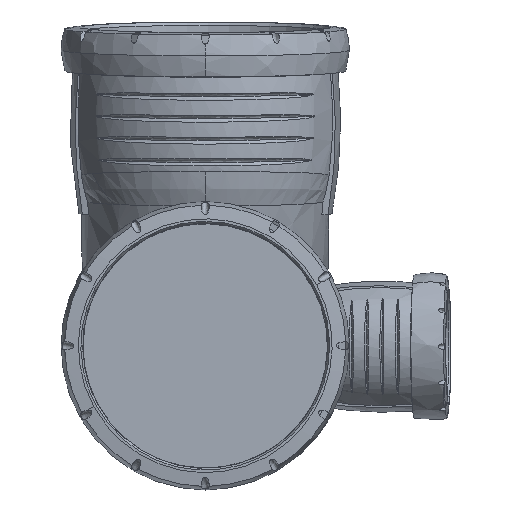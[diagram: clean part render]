
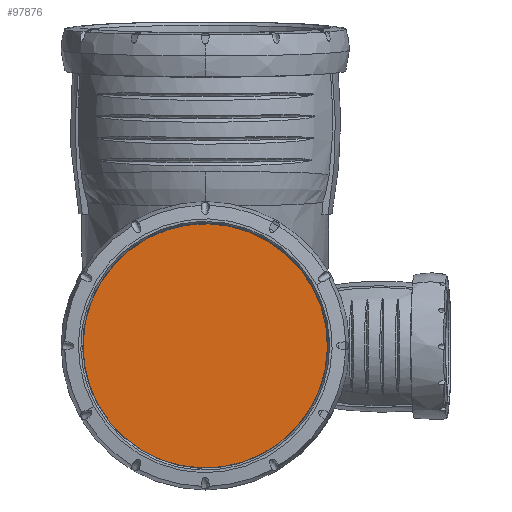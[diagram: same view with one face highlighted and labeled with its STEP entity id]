
A CAD part, top view. The second image highlights one B-rep face of the part: STEP entity #97876.
In plain terms, the highlighted planar face has unit normal (0, 0, 1).
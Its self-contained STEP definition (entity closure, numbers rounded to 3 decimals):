
#97176=CARTESIAN_POINT('',(48.706,26.608,283.2));
#97177=VERTEX_POINT('',#97176);
#97191=CARTESIAN_POINT('',(0.,0.,283.2));
#97196=DIRECTION('',(0.,0.,-1.));
#97201=DIRECTION('',(0.878,0.479,0.));
#97206=AXIS2_PLACEMENT_3D('',#97191,#97196,#97201);
#97211=CIRCLE('',#97206,55.5);
#97216=CARTESIAN_POINT('',(-48.706,-26.608,283.2));
#97217=VERTEX_POINT('',#97216);
#97221=EDGE_CURVE('',#97177,#97217,#97211,.T.);
#97361=CARTESIAN_POINT('',(0.,0.,283.2));
#97366=DIRECTION('',(0.,0.,-1.));
#97371=DIRECTION('',(-0.878,-0.479,0.));
#97376=AXIS2_PLACEMENT_3D('',#97361,#97366,#97371);
#97381=CIRCLE('',#97376,55.5);
#97386=EDGE_CURVE('',#97217,#97177,#97381,.T.);
#97831=DIRECTION('',(0.,0.,1.));
#97836=CARTESIAN_POINT('',(77.548,-22.885,283.2));
#97841=DIRECTION('',(-0.498,0.867,0.));
#97846=AXIS2_PLACEMENT_3D('',#97836,#97831,#97841);
#97851=PLANE('',#97846);
#97856=ORIENTED_EDGE('',*,*,#97221,.F.);
#97861=ORIENTED_EDGE('',*,*,#97386,.F.);
#97866=EDGE_LOOP('',(#97856,#97861));
#97871=FACE_OUTER_BOUND('',#97866,.T.);
#97876=ADVANCED_FACE('',(#97871),#97851,.T.);
